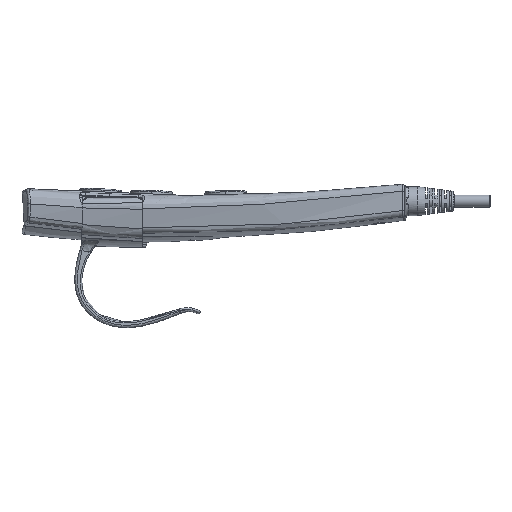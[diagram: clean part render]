
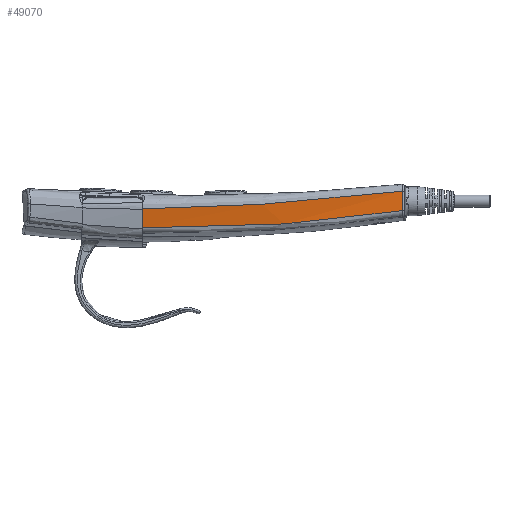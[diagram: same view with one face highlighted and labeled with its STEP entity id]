
A CAD part, left-side view. The second image highlights one B-rep face of the part: STEP entity #49070.
In plain terms, the highlighted toroidal (fillet/blend) face has major radius 3290.82 mm and minor radius 53.472 mm.
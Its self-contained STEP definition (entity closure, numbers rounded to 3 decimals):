
#6583 = TOROIDAL_SURFACE ( 'NONE', #50926, 3290.825, 53.472 ) ;
#6588 = FACE_OUTER_BOUND ( 'NONE', #30581, .T. ) ;
#7564 = CARTESIAN_POINT ( 'NONE',  ( -11.39, 32.135, 4.781 ) ) ;
#7567 = CARTESIAN_POINT ( 'NONE',  ( -7.992, -75.947, 12.139 ) ) ;
#7878 = CARTESIAN_POINT ( 'NONE',  ( -7.845, -75.954, 4.037 ) ) ;
#8033 = CARTESIAN_POINT ( 'NONE',  ( 3332.309, 85.659, 9.053 ) ) ;
#8035 = DIRECTION ( 'NONE',  ( 0., 0., -1. ) ) ;
#8056 = DIRECTION ( 'NONE',  ( -1., 0., 0. ) ) ;
#11567 = EDGE_CURVE ( 'NONE', #47957, #47334, #39781, .T. ) ;
#11569 = VERTEX_POINT ( 'NONE', #50635 ) ;
#11584 = EDGE_CURVE ( 'NONE', #11569, #47957, #39790, .T. ) ;
#11586 = EDGE_CURVE ( 'NONE', #11569, #47328, #39791, .T. ) ;
#11589 = EDGE_CURVE ( 'NONE', #47334, #47328, #39792, .T. ) ;
#30581 = EDGE_LOOP ( 'NONE', ( #44772, #44782, #44849, #44868 ) ) ;
#39781 = B_SPLINE_CURVE_WITH_KNOTS ( 'NONE', 3,
 ( #50606, #50636, #50637, #50638 ),
 .UNSPECIFIED., .F., .F.,
 ( 4, 4 ),
 ( 0., 0.008 ),
 .UNSPECIFIED. ) ;
#39790 = B_SPLINE_CURVE_WITH_KNOTS ( 'NONE', 3,
 ( #50670, #64270, #64272, #64274, #64276, #64278, #64280, #64282, #64284, #64286, #64288, #64290, #64292, #64294, #64296, #64298 ),
 .UNSPECIFIED., .F., .F.,
 ( 4, 2, 2, 2, 2, 2, 2, 4 ),
 ( 0.048, 0.075, 0.089, 0.095, 0.102, 0.129, 0.143, 0.156 ),
 .UNSPECIFIED. ) ;
#39791 = B_SPLINE_CURVE_WITH_KNOTS ( 'NONE', 3,
 ( #64266, #64303, #64305, #64307 ),
 .UNSPECIFIED., .F., .F.,
 ( 4, 4 ),
 ( 0., 1. ),
 .UNSPECIFIED. ) ;
#39792 = B_SPLINE_CURVE_WITH_KNOTS ( 'NONE', 3,
 ( #64309, #64313, #64315, #64317, #64319, #64321, #64323, #64325, #64327, #64329, #64331, #64333, #64335, #64337, #64339, #64341, #64343, #64345, #64347, #64349, #64351, #64353, #64355, #64357, #64359, #64361, #64363, #64365, #64367, #64369, #64371, #64373, #64375, #64377, #64379, #64381, #64383, #64385, #64387, #64389, #64391, #64393, #64395 ),
 .UNSPECIFIED., .F., .F.,
 ( 4, 2, 1, 1, 1, 2, 2, 1, 1, 1, 2, 2, 2, 1, 1, 1, 1, 1, 1, 2, 2, 2, 1, 1, 1, 2, 2, 2, 4 ),
 ( 0.006, 0.092, 0.135, 0.156, 0.162, 0.163, 0.164, 0.165, 0.167, 0.178, 0.264, 0.286, 0.286, 0.286, 0.287, 0.288, 0.291, 0.296, 0.307, 0.35, 0.436, 0.479, 0.49, 0.496, 0.498, 0.5, 0.501, 0.523, 0.695 ),
 .UNSPECIFIED. ) ;
#44772 = ORIENTED_EDGE ( 'NONE', *, *, #11586, .F. ) ;
#44782 = ORIENTED_EDGE ( 'NONE', *, *, #11584, .T. ) ;
#44849 = ORIENTED_EDGE ( 'NONE', *, *, #11567, .T. ) ;
#44868 = ORIENTED_EDGE ( 'NONE', *, *, #11589, .T. ) ;
#47328 = VERTEX_POINT ( 'NONE', #7564 ) ;
#47334 = VERTEX_POINT ( 'NONE', #7567 ) ;
#47957 = VERTEX_POINT ( 'NONE', #7878 ) ;
#49070 = ADVANCED_FACE ( 'NONE', ( #6588 ), #6583, .T. ) ;
#50606 = CARTESIAN_POINT ( 'NONE',  ( -7.845, -75.954, 4.037 ) ) ;
#50635 = CARTESIAN_POINT ( 'NONE',  ( -10.162, 32.135, -3.095 ) ) ;
#50636 = CARTESIAN_POINT ( 'NONE',  ( -8.1, -75.943, 6.73 ) ) ;
#50637 = CARTESIAN_POINT ( 'NONE',  ( -8.149, -75.94, 9.439 ) ) ;
#50638 = CARTESIAN_POINT ( 'NONE',  ( -7.992, -75.947, 12.139 ) ) ;
#50670 = CARTESIAN_POINT ( 'NONE',  ( -10.162, 32.135, -3.095 ) ) ;
#50926 = AXIS2_PLACEMENT_3D ( 'NONE', #8033, #8035, #8056 ) ;
#64266 = CARTESIAN_POINT ( 'NONE',  ( -10.162, 32.135, -3.095 ) ) ;
#64270 = CARTESIAN_POINT ( 'NONE',  ( -9.951, 23.11, -3.381 ) ) ;
#64272 = CARTESIAN_POINT ( 'NONE',  ( -9.784, 14.078, -3.32 ) ) ;
#64274 = CARTESIAN_POINT ( 'NONE',  ( -9.549, 0.522, -2.922 ) ) ;
#64276 = CARTESIAN_POINT ( 'NONE',  ( -9.473, -3.997, -2.738 ) ) ;
#64278 = CARTESIAN_POINT ( 'NONE',  ( -9.355, -10.77, -2.413 ) ) ;
#64280 = CARTESIAN_POINT ( 'NONE',  ( -9.314, -13.027, -2.296 ) ) ;
#64282 = CARTESIAN_POINT ( 'NONE',  ( -9.231, -17.541, -2.05 ) ) ;
#64284 = CARTESIAN_POINT ( 'NONE',  ( -9.188, -19.797, -1.922 ) ) ;
#64286 = CARTESIAN_POINT ( 'NONE',  ( -8.965, -31.076, -1.24 ) ) ;
#64288 = CARTESIAN_POINT ( 'NONE',  ( -8.771, -40.091, -0.569 ) ) ;
#64290 = CARTESIAN_POINT ( 'NONE',  ( -8.456, -53.587, 0.823 ) ) ;
#64292 = CARTESIAN_POINT ( 'NONE',  ( -8.347, -58.076, 1.351 ) ) ;
#64294 = CARTESIAN_POINT ( 'NONE',  ( -8.112, -67.033, 2.567 ) ) ;
#64296 = CARTESIAN_POINT ( 'NONE',  ( -7.987, -71.501, 3.254 ) ) ;
#64298 = CARTESIAN_POINT ( 'NONE',  ( -7.845, -75.954, 4.037 ) ) ;
#64303 = CARTESIAN_POINT ( 'NONE',  ( -10.767, 32.135, -0.501 ) ) ;
#64305 = CARTESIAN_POINT ( 'NONE',  ( -11.177, 32.134, 2.135 ) ) ;
#64307 = CARTESIAN_POINT ( 'NONE',  ( -11.39, 32.135, 4.781 ) ) ;
#64309 = CARTESIAN_POINT ( 'NONE',  ( -7.992, -75.947, 12.139 ) ) ;
#64313 = CARTESIAN_POINT ( 'NONE',  ( -8.24, -71.44, 11.629 ) ) ;
#64315 = CARTESIAN_POINT ( 'NONE',  ( -8.469, -66.955, 11.14 ) ) ;
#64317 = CARTESIAN_POINT ( 'NONE',  ( -8.787, -60.261, 10.436 ) ) ;
#64319 = CARTESIAN_POINT ( 'NONE',  ( -8.94, -56.923, 10.092 ) ) ;
#64321 = CARTESIAN_POINT ( 'NONE',  ( -9.096, -53.32, 9.733 ) ) ;
#64323 = CARTESIAN_POINT ( 'NONE',  ( -9.157, -51.867, 9.589 ) ) ;
#64325 = CARTESIAN_POINT ( 'NONE',  ( -9.172, -51.522, 9.555 ) ) ;
#64327 = CARTESIAN_POINT ( 'NONE',  ( -9.176, -51.418, 9.545 ) ) ;
#64329 = CARTESIAN_POINT ( 'NONE',  ( -9.177, -51.38, 9.541 ) ) ;
#64331 = CARTESIAN_POINT ( 'NONE',  ( -9.181, -51.308, 9.534 ) ) ;
#64333 = CARTESIAN_POINT ( 'NONE',  ( -9.188, -51.126, 9.517 ) ) ;
#64335 = CARTESIAN_POINT ( 'NONE',  ( -9.22, -50.364, 9.442 ) ) ;
#64337 = CARTESIAN_POINT ( 'NONE',  ( -9.44, -45.019, 8.923 ) ) ;
#64339 = CARTESIAN_POINT ( 'NONE',  ( -9.629, -39.968, 8.461 ) ) ;
#64341 = CARTESIAN_POINT ( 'NONE',  ( -9.819, -34.506, 7.99 ) ) ;
#64343 = CARTESIAN_POINT ( 'NONE',  ( -9.856, -33.421, 7.898 ) ) ;
#64345 = CARTESIAN_POINT ( 'NONE',  ( -9.892, -32.327, 7.806 ) ) ;
#64347 = CARTESIAN_POINT ( 'NONE',  ( -9.893, -32.307, 7.805 ) ) ;
#64349 = CARTESIAN_POINT ( 'NONE',  ( -9.894, -32.269, 7.802 ) ) ;
#64351 = CARTESIAN_POINT ( 'NONE',  ( -9.896, -32.213, 7.797 ) ) ;
#64353 = CARTESIAN_POINT ( 'NONE',  ( -9.9, -32.083, 7.786 ) ) ;
#64355 = CARTESIAN_POINT ( 'NONE',  ( -9.909, -31.822, 7.764 ) ) ;
#64357 = CARTESIAN_POINT ( 'NONE',  ( -9.926, -31.301, 7.721 ) ) ;
#64359 = CARTESIAN_POINT ( 'NONE',  ( -9.96, -30.261, 7.636 ) ) ;
#64361 = CARTESIAN_POINT ( 'NONE',  ( -10.065, -27.007, 7.372 ) ) ;
#64363 = CARTESIAN_POINT ( 'NONE',  ( -10.154, -24.093, 7.147 ) ) ;
#64365 = CARTESIAN_POINT ( 'NONE',  ( -10.357, -17.186, 6.639 ) ) ;
#64367 = CARTESIAN_POINT ( 'NONE',  ( -10.477, -12.695, 6.34 ) ) ;
#64369 = CARTESIAN_POINT ( 'NONE',  ( -10.64, -6.129, 5.951 ) ) ;
#64371 = CARTESIAN_POINT ( 'NONE',  ( -10.691, -3.969, 5.831 ) ) ;
#64373 = CARTESIAN_POINT ( 'NONE',  ( -10.752, -1.304, 5.694 ) ) ;
#64375 = CARTESIAN_POINT ( 'NONE',  ( -10.77, -0.507, 5.654 ) ) ;
#64377 = CARTESIAN_POINT ( 'NONE',  ( -10.791, 0.418, 5.609 ) ) ;
#64379 = CARTESIAN_POINT ( 'NONE',  ( -10.801, 0.879, 5.586 ) ) ;
#64381 = CARTESIAN_POINT ( 'NONE',  ( -10.806, 1.076, 5.577 ) ) ;
#64383 = CARTESIAN_POINT ( 'NONE',  ( -10.809, 1.208, 5.571 ) ) ;
#64385 = CARTESIAN_POINT ( 'NONE',  ( -10.81, 1.284, 5.567 ) ) ;
#64387 = CARTESIAN_POINT ( 'NONE',  ( -10.838, 2.552, 5.507 ) ) ;
#64389 = CARTESIAN_POINT ( 'NONE',  ( -10.864, 3.738, 5.453 ) ) ;
#64391 = CARTESIAN_POINT ( 'NONE',  ( -11.09, 14.366, 5. ) ) ;
#64393 = CARTESIAN_POINT ( 'NONE',  ( -11.251, 23.438, 4.793 ) ) ;
#64395 = CARTESIAN_POINT ( 'NONE',  ( -11.39, 32.135, 4.781 ) ) ;
